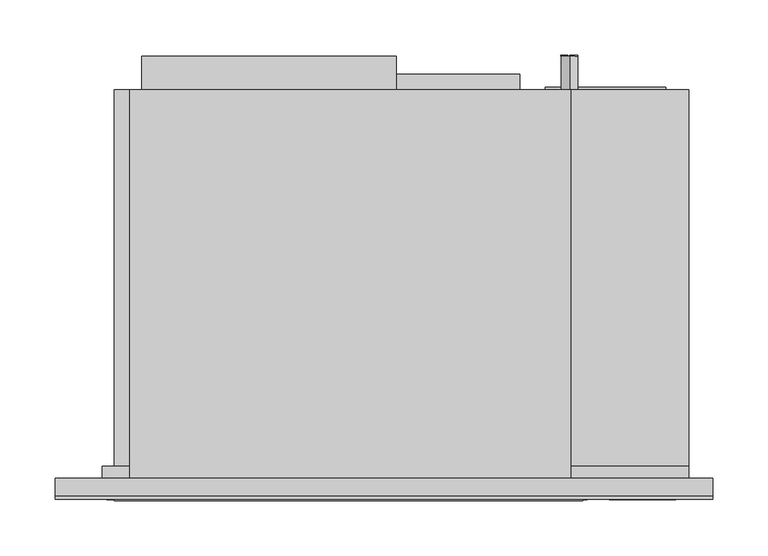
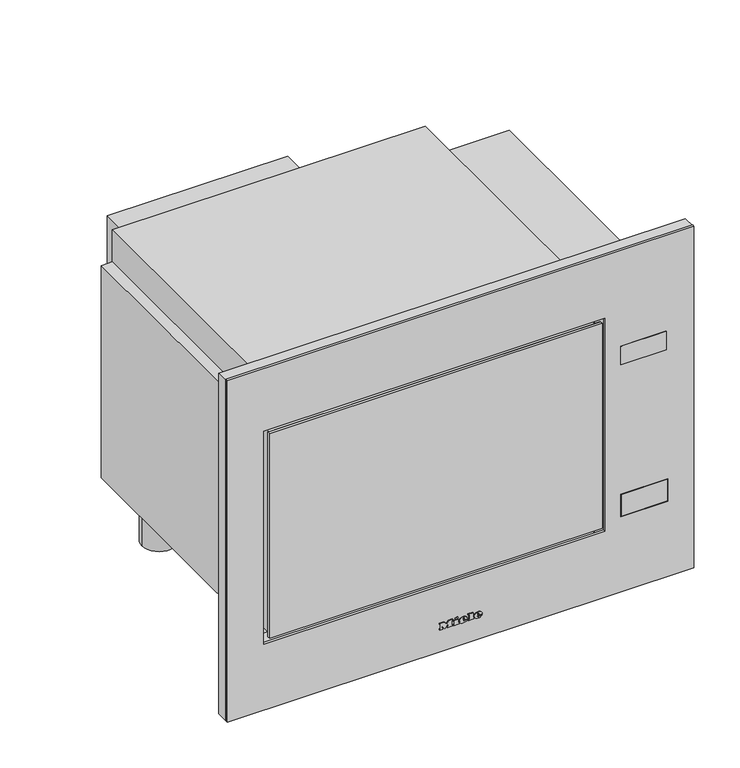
"""IFC4 building model written with IfcOpenShell, lengths in millimetres: proxy geometry, 11100570_NER_M2240SC_OBSW : 24224020_NER_11100570_M2240SC_OBSW."""

from ifc_helpers import new_model, si_unit, point, frame, frame_2d, origin, origin_with_axes, place, context, project, spatial, polyline, circle_curve, ellipse_curve, trimmed, segment, composite_curve, outline, extrude, faceted_brep, source, transform, mapped, element, save
from ifc_brep_helpers import plane_surface, cylinder_surface, revolved_surface, extruded_surface, advanced_brep


def specialty_equipment_8418b30c(model_context):
    return source(origin(), model_context, "Body", "SolidModel", [
        advanced_brep(
        [(21.28, -20.0, 27.133), (21.28, -20.0, 28.042), (27.301, -20.0, 28.042), (16.825, -20.0, 28.042), (19.3, -20.0, 25.0), (27.148, -20.0, 27.133), (24.43, -20.0, 27.133), (22.288, -20.0, 26.125), (21.28, -20.0, 29.194), (21.28, -20.0, 30.175), (22.819, -20.0, 30.175), (22.819, -20.0, 29.194), (21.28, -19.0, 27.133), (22.288, -19.0, 26.125), (24.43, -19.0, 27.133), (27.148, -19.0, 27.133), (19.3, -19.0, 25.0), (16.825, -19.0, 28.042), (27.301, -19.0, 28.042), (21.28, -19.0, 28.042), (21.28, -19.0, 29.194), (22.819, -19.0, 29.194), (22.819, -19.0, 30.175), (21.28, -19.0, 30.175)],
        [
            (0, 1),
            (1, 2),
            (2, 3, ellipse_curve(frame((22.063, -20.0, 28.042), z_axis=(0.0, -1.0, 0.0), x_axis=(-1.0, 0.0, 0.0)), 5.238, 4.329)),
            (3, 4, circle_curve(frame((20.3080491, -20.0, 28.348), z_axis=(0.0, -1.0, 0.0), x_axis=(0.0, 0.0, -1.0)), 3.4964649)),
            (4, 5, circle_curve(frame((21.9581428, -20.0, 30.724), z_axis=(0.0, -1.0, 0.0), x_axis=(0.0, 0.0, -1.0)), 6.3110933)),
            (5, 6),
            (6, 7, circle_curve(frame((22.7279412, -20.0, 27.97), z_axis=(0.0, 1.0, 0.0), x_axis=(0.0, 0.0, -1.0)), 1.896727)),
            (7, 0, circle_curve(frame((22.288, -20.0, 27.133), z_axis=(0.0, 1.0, 0.0), x_axis=(0.0, 0.0, -1.0)), 1.008)),
            (8, 9),
            (9, 10, circle_curve(frame((22.0495, -20.0, 30.175), z_axis=(0.0, 1.0, 0.0), x_axis=(0.0, 0.0, -1.0)), 0.7695)),
            (10, 11),
            (11, 8),
            (12, 13, circle_curve(frame((22.288, -19.0, 27.133), z_axis=(0.0, -1.0, 0.0), x_axis=(0.0, 0.0, -1.0)), 1.008)),
            (13, 14, circle_curve(frame((22.7279412, -19.0, 27.97), z_axis=(0.0, -1.0, 0.0), x_axis=(0.0, 0.0, -1.0)), 1.896727)),
            (14, 15),
            (15, 16, circle_curve(frame((21.9581428, -19.0, 30.724), z_axis=(0.0, 1.0, 0.0), x_axis=(0.0, 0.0, -1.0)), 6.3110933)),
            (16, 17, circle_curve(frame((20.3080491, -19.0, 28.348), z_axis=(0.0, 1.0, 0.0), x_axis=(0.0, 0.0, -1.0)), 3.4964649)),
            (17, 18, ellipse_curve(frame((22.063, -19.0, 28.042), z_axis=(0.0, 1.0, 0.0), x_axis=(-1.0, 0.0, 0.0)), 5.238, 4.329)),
            (18, 19),
            (19, 12),
            (20, 21),
            (21, 22),
            (22, 23, circle_curve(frame((22.0495, -19.0, 30.175), z_axis=(0.0, -1.0, 0.0), x_axis=(0.0, 0.0, -1.0)), 0.7695)),
            (23, 20),
            (0, 12),
            (19, 1),
            (18, 2),
            (5, 15),
            (14, 6),
            (17, 3),
            (13, 7),
            (16, 4),
            (8, 20),
            (23, 9),
            (22, 10),
            (21, 11),
        ],
        [
            plane_surface(frame((21.28, -20.0, 28.042), z_axis=(0.0, -1.0, 0.0), x_axis=(0.0, 0.0, 1.0))),
            plane_surface(frame((21.28, -19.0, 28.042), z_axis=(0.0, 1.0, 0.0), x_axis=(0.0, 0.0, -1.0))),
            plane_surface(frame((21.28, -20.0, 27.133), z_axis=(1.0, 0.0, 0.0), x_axis=(0.0, 1.0, 0.0))),
            plane_surface(frame((21.28, -20.0, 28.042), z_axis=(0.0, 0.0, -1.0), x_axis=(0.0, 1.0, 0.0))),
            plane_surface(frame((27.148, -20.0, 27.133), z_axis=(0.0, 0.0, 1.0), x_axis=(0.0, 1.0, 0.0))),
            extruded_surface(trimmed(ellipse_curve(frame((22.063, -18.0, 28.042), z_axis=(0.0, -1.0, 0.0), x_axis=(-1.0, 0.0, 0.0)), 5.238, 4.329), [point((27.301, -18.0, 28.042))], [point((16.825, -18.0, 28.042))], True, "CARTESIAN"), (0.0, -1.0, 0.0), 1.0),
            revolved_surface(polyline([(22.7279412, -19.0, 26.073273), (22.7279412, -20.0, 26.073273)]), (22.7279412, -19.0, 27.97), (0.0, 1.0, 0.0)),
            revolved_surface(polyline([(22.288, -19.0, 26.125), (22.288, -20.0, 26.125)]), (22.288, -19.0, 27.133), (0.0, 1.0, 0.0)),
            cylinder_surface(frame((20.3080491, -19.0, 28.348), z_axis=(0.0, -1.0, 0.0), x_axis=(0.0, 0.0, -1.0)), 3.4964649),
            cylinder_surface(frame((21.9581428, -19.0, 30.724), z_axis=(0.0, -1.0, 0.0), x_axis=(0.0, 0.0, -1.0)), 6.3110933),
            plane_surface(frame((21.28, -20.0, 29.194), z_axis=(1.0, 0.0, 0.0), x_axis=(0.0, 1.0, 0.0))),
            revolved_surface(polyline([(22.0495, -19.0, 29.4055), (22.0495, -20.0, 29.4055)]), (22.0495, -19.0, 30.175), (0.0, 1.0, 0.0)),
            plane_surface(frame((22.819, -20.0, 30.175), z_axis=(-1.0, 0.0, 0.0), x_axis=(0.0, 1.0, 0.0))),
            plane_surface(frame((22.819, -20.0, 29.194), z_axis=(0.0, 0.0, 1.0), x_axis=(0.0, 1.0, 0.0))),
        ],
        [
            (0, [[1, 2, 3, 4, 5, 6, 7, 8], [9, 10, 11, 12]]),
            (1, [[13, 14, 15, 16, 17, 18, 19, 20], [21, 22, 23, 24]]),
            (2, [[-1, 25, -20, 26]]),
            (3, [[-2, -26, -19, 27]]),
            (4, [[-6, 28, -15, 29]]),
            (5, [[-3, -27, -18, 30]]),
            (6, [[-7, -29, -14, 31]]),
            (7, [[-8, -31, -13, -25]]),
            (8, [[-4, -30, -17, 32]]),
            (9, [[-5, -32, -16, -28]]),
            (10, [[-9, 33, -24, 34]]),
            (11, [[-10, -34, -23, 35]]),
            (12, [[-11, -35, -22, 36]]),
            (13, [[-12, -36, -21, -33]]),
        ],
    ),
        advanced_brep(
        [(2.497, -20.0, 27.133), (2.497, -20.0, 28.042), (8.518, -20.0, 28.042), (-1.958, -20.0, 28.042), (0.517, -20.0, 25.0), (8.365, -20.0, 27.133), (5.647, -20.0, 27.133), (3.505, -20.0, 26.125), (2.497, -20.0, 29.194), (2.497, -20.0, 30.175), (4.036, -20.0, 30.175), (4.036, -20.0, 29.194), (2.497, -19.0, 27.133), (3.505, -19.0, 26.125), (5.647, -19.0, 27.133), (8.365, -19.0, 27.133), (0.517, -19.0, 25.0), (-1.958, -19.0, 28.042), (8.518, -19.0, 28.042), (2.497, -19.0, 28.042), (2.497, -19.0, 29.194), (4.036, -19.0, 29.194), (4.036, -19.0, 30.175), (2.497, -19.0, 30.175)],
        [
            (0, 1),
            (1, 2),
            (2, 3, ellipse_curve(frame((3.28, -20.0, 28.042), z_axis=(0.0, -1.0, 0.0), x_axis=(-1.0, 0.0, 0.0)), 5.238, 4.329)),
            (3, 4, circle_curve(frame((1.5250491, -20.0, 28.348), z_axis=(0.0, -1.0, 0.0), x_axis=(0.0, 0.0, -1.0)), 3.4964649)),
            (4, 5, circle_curve(frame((3.1751428, -20.0, 30.724), z_axis=(0.0, -1.0, 0.0), x_axis=(0.0, 0.0, -1.0)), 6.3110933)),
            (5, 6),
            (6, 7, circle_curve(frame((3.9449412, -20.0, 27.97), z_axis=(0.0, 1.0, 0.0), x_axis=(0.0, 0.0, -1.0)), 1.896727)),
            (7, 0, circle_curve(frame((3.505, -20.0, 27.133), z_axis=(0.0, 1.0, 0.0), x_axis=(0.0, 0.0, -1.0)), 1.008)),
            (8, 9),
            (9, 10, circle_curve(frame((3.2665, -20.0, 30.175), z_axis=(0.0, 1.0, 0.0), x_axis=(0.0, 0.0, -1.0)), 0.7695)),
            (10, 11),
            (11, 8),
            (12, 13, circle_curve(frame((3.505, -19.0, 27.133), z_axis=(0.0, -1.0, 0.0), x_axis=(0.0, 0.0, -1.0)), 1.008)),
            (13, 14, circle_curve(frame((3.9449412, -19.0, 27.97), z_axis=(0.0, -1.0, 0.0), x_axis=(0.0, 0.0, -1.0)), 1.896727)),
            (14, 15),
            (15, 16, circle_curve(frame((3.1751428, -19.0, 30.724), z_axis=(0.0, 1.0, 0.0), x_axis=(0.0, 0.0, -1.0)), 6.3110933)),
            (16, 17, circle_curve(frame((1.5250491, -19.0, 28.348), z_axis=(0.0, 1.0, 0.0), x_axis=(0.0, 0.0, -1.0)), 3.4964649)),
            (17, 18, ellipse_curve(frame((3.28, -19.0, 28.042), z_axis=(0.0, 1.0, 0.0), x_axis=(-1.0, 0.0, 0.0)), 5.238, 4.329)),
            (18, 19),
            (19, 12),
            (20, 21),
            (21, 22),
            (22, 23, circle_curve(frame((3.2665, -19.0, 30.175), z_axis=(0.0, -1.0, 0.0), x_axis=(0.0, 0.0, -1.0)), 0.7695)),
            (23, 20),
            (0, 12),
            (19, 1),
            (18, 2),
            (5, 15),
            (14, 6),
            (17, 3),
            (13, 7),
            (16, 4),
            (8, 20),
            (23, 9),
            (22, 10),
            (21, 11),
        ],
        [
            plane_surface(frame((2.497, -20.0, 28.042), z_axis=(0.0, -1.0, 0.0), x_axis=(0.0, 0.0, 1.0))),
            plane_surface(frame((2.497, -19.0, 28.042), z_axis=(0.0, 1.0, 0.0), x_axis=(0.0, 0.0, -1.0))),
            plane_surface(frame((2.497, -20.0, 27.133), z_axis=(1.0, 0.0, 0.0), x_axis=(0.0, 1.0, 0.0))),
            plane_surface(frame((2.497, -20.0, 28.042), z_axis=(0.0, 0.0, -1.0), x_axis=(0.0, 1.0, 0.0))),
            plane_surface(frame((8.365, -20.0, 27.133), z_axis=(0.0, 0.0, 1.0), x_axis=(0.0, 1.0, 0.0))),
            extruded_surface(trimmed(ellipse_curve(frame((3.28, -18.0, 28.042), z_axis=(0.0, -1.0, 0.0), x_axis=(-1.0, 0.0, 0.0)), 5.238, 4.329), [point((8.518, -18.0, 28.042))], [point((-1.958, -18.0, 28.042))], True, "CARTESIAN"), (0.0, -1.0, 0.0), 1.0),
            revolved_surface(polyline([(3.9449412, -19.0, 26.073273), (3.9449412, -20.0, 26.073273)]), (3.9449412, -19.0, 27.97), (0.0, 1.0, 0.0)),
            revolved_surface(polyline([(3.505, -19.0, 26.125), (3.505, -20.0, 26.125)]), (3.505, -19.0, 27.133), (0.0, 1.0, 0.0)),
            cylinder_surface(frame((1.5250491, -19.0, 28.348), z_axis=(0.0, -1.0, 0.0), x_axis=(0.0, 0.0, -1.0)), 3.4964649),
            cylinder_surface(frame((3.1751428, -19.0, 30.724), z_axis=(0.0, -1.0, 0.0), x_axis=(0.0, 0.0, -1.0)), 6.3110933),
            plane_surface(frame((2.497, -20.0, 29.194), z_axis=(1.0, 0.0, 0.0), x_axis=(0.0, 1.0, 0.0))),
            revolved_surface(polyline([(3.2665, -19.0, 29.4055), (3.2665, -20.0, 29.4055)]), (3.2665, -19.0, 30.175), (0.0, 1.0, 0.0)),
            plane_surface(frame((4.036, -20.0, 30.175), z_axis=(-1.0, 0.0, 0.0), x_axis=(0.0, 1.0, 0.0))),
            plane_surface(frame((4.036, -20.0, 29.194), z_axis=(0.0, 0.0, 1.0), x_axis=(0.0, 1.0, 0.0))),
        ],
        [
            (0, [[1, 2, 3, 4, 5, 6, 7, 8], [9, 10, 11, 12]]),
            (1, [[13, 14, 15, 16, 17, 18, 19, 20], [21, 22, 23, 24]]),
            (2, [[-1, 25, -20, 26]]),
            (3, [[-2, -26, -19, 27]]),
            (4, [[-6, 28, -15, 29]]),
            (5, [[-3, -27, -18, 30]]),
            (6, [[-7, -29, -14, 31]]),
            (7, [[-8, -31, -13, -25]]),
            (8, [[-4, -30, -17, 32]]),
            (9, [[-5, -32, -16, -28]]),
            (10, [[-9, 33, -24, 34]]),
            (11, [[-10, -34, -23, 35]]),
            (12, [[-11, -35, -22, 36]]),
            (13, [[-12, -36, -21, -33]]),
        ],
    ),
        extrude(outline(polyline([(33.469, -7.34), (32.011, -6.656), (33.433, -3.605), (34.891, -4.28), (33.469, -7.34)])), frame((0.0, -20.0, 0.0), z_axis=(0.0, 1.0, 0.0), x_axis=(0.0, 0.0, 1.0)), (0.0, 0.0, 1.0), 1.0),
        extrude(outline(polyline([(31.813, -9.563), (30.202, -9.563), (30.202, -8.492), (26.512, -8.492), (26.512, -9.563), (25.0, -9.563), (25.0, -2.462), (26.512, -2.462), (26.512, -3.506), (31.813, -3.506), (31.813, -9.563)])), frame((0.0, -20.0, 0.0), z_axis=(0.0, 1.0, 0.0), x_axis=(0.0, 0.0, 1.0)), (0.0, 0.0, 1.0), 1.0),
        extrude(outline(polyline([(32.533, 9.022), (32.533, 10.102), (26.512, 10.102), (26.512, 9.022), (25.0, 9.022), (25.0, 16.321), (26.512, 16.321), (26.512, 15.214), (34.0, 15.214), (34.0, 9.022), (32.533, 9.022)])), frame((0.0, -20.0, 0.0), z_axis=(0.0, 1.0, 0.0), x_axis=(0.0, 0.0, 1.0)), (0.0, 0.0, 1.0), 1.0),
        extrude(outline(polyline([(32.533, -27.5), (32.533, -26.411), (26.512, -26.411), (26.512, -27.5), (25.0, -27.5), (25.0, -23.54), (26.512, -23.54), (26.512, -24.62), (30.3341247, -24.62), (25.0, -20.597), (30.4402223, -16.556), (26.512, -16.556), (26.512, -17.663), (25.0, -17.663), (25.0, -10.481), (26.512, -10.481), (26.512, -11.624), (32.533, -11.624), (32.533, -10.481), (34.0, -10.481), (34.0, -15.962), (30.625, -18.59), (34.0, -21.227), (34.0, -27.5), (32.533, -27.5)])), frame((0.0, -20.0, 0.0), z_axis=(0.0, 1.0, 0.0), x_axis=(0.0, 0.0, 1.0)), (0.0, 0.0, 1.0), 1.0),
        extrude(outline(polyline([(204.5, -16.0), (263.5, -16.0), (263.5, -19.0), (204.5, -19.0), (204.5, -16.0)])), frame((0.0, 0.0, 97.0), z_axis=(0.0, 0.0, 1.0), x_axis=(1.0, 0.0, 0.0)), (0.0, 0.0, 1.0), 29.0),
        extrude(outline(polyline([(204.0, -18.8), (262.0, -18.8), (262.0, -19.1), (204.0, -19.1), (204.0, -18.8)])), frame((0.0, 0.0, 301.5), z_axis=(0.0, 0.0, 1.0), x_axis=(1.0, 0.0, 0.0)), (0.0, 0.0, 1.0), 25.0),
        extrude(outline(polyline([(455.5, 297.5), (455.5, -297.5), (-5.0, -297.5), (-5.0, 297.5), (455.5, 297.5)]), holes=[polyline([(371.0, 184.0), (84.0, 184.0), (84.0, -251.0), (371.0, -251.0), (371.0, 184.0)]), polyline([(126.5, 264.0), (96.5, 264.0), (96.5, 204.0), (126.5, 204.0), (126.5, 264.0)])]), frame((0.0, -19.0, 0.0), z_axis=(0.0, 1.0, 0.0), x_axis=(0.0, 0.0, 1.0)), (0.0, 0.0, 1.0), 3.0),
        extrude(outline(polyline([(-243.0, 10.0), (180.0, 10.0), (180.0, -16.0), (-243.0, -16.0), (-243.0, 10.0)])), frame((0.0, 0.0, 95.0), z_axis=(0.0, 0.0, 1.0), x_axis=(1.0, 0.0, 0.0)), (0.0, 0.0, 1.0), 271.0),
        extrude(outline(polyline([(-244.0, -16.0), (180.0, -16.0), (180.0, -20.0), (-244.0, -20.0), (-244.0, -16.0)])), frame((0.0, 0.0, 90.0), z_axis=(0.0, 0.0, 1.0), x_axis=(1.0, 0.0, 0.0)), (0.0, 0.0, 1.0), 276.0),
        extrude(outline(polyline([(-219.0, 382.0), (11.0, 382.0), (11.0, 352.0), (-219.0, 352.0), (-219.0, 382.0)])), frame((0.0, 0.0, 336.0), z_axis=(0.0, 0.0, 1.0), x_axis=(1.0, 0.0, 0.0)), (0.0, 0.0, 1.0), 71.0),
        extrude(outline(polyline([(348.0536781, 168.1660444), (346.7952065, 168.1660444), (346.7952065, 174.1269959), (343.8028248, 174.1269959), (343.8028248, 168.4835385), (342.5487231, 168.4835385), (342.5487231, 174.1269959), (339.2630117, 174.1269959), (339.2630117, 168.0), (338.0, 168.0), (338.0, 175.3757838), (348.0536781, 175.3757838), (348.0536781, 168.1660444)])), frame((0.0, 382.0, 0.0), z_axis=(0.0, 1.0, 0.0), x_axis=(0.0, 0.0, 1.0)), (0.0, 0.0, 1.0), 1.0),
        extrude(outline(polyline([(348.0536781, 164.8530432), (339.2543004, 164.8530432), (339.2543004, 159.8378502), (338.0, 159.8378502), (338.0, 166.1246692), (348.0536781, 166.1246692), (348.0536781, 164.8530432)])), frame((0.0, 382.0, 0.0), z_axis=(0.0, 1.0, 0.0), x_axis=(0.0, 0.0, 1.0)), (0.0, 0.0, 1.0), 1.0),
        extrude(outline(composite_curve([segment(trimmed(circle_curve(frame_2d((343.0, 168.0)), 7.5), [point((335.5, 168.0))], [point((350.5, 168.0))], False, "CARTESIAN"), True, "CONTINUOUS"), segment(trimmed(circle_curve(frame_2d((343.0, 168.0)), 7.5), [point((350.5, 168.0))], [point((335.5, 168.0))], False, "CARTESIAN"), True, "CONTINUOUS")], self_intersect=False)), frame((0.0, 352.0, 0.0), z_axis=(0.0, 1.0, 0.0), x_axis=(0.0, 0.0, 1.0)), (0.0, 0.0, 1.0), 30.0),
        extrude(outline(composite_curve([segment(trimmed(circle_curve(frame_2d((-191.0, 61.0)), 22.0), [point((-169.0, 61.0))], [point((-213.0, 61.0))], False, "CARTESIAN"), True, "CONTINUOUS"), segment(trimmed(circle_curve(frame_2d((-191.0, 61.0)), 22.0), [point((-213.0, 61.0))], [point((-169.0, 61.0))], False, "CARTESIAN"), True, "CONTINUOUS")], self_intersect=False)), origin_with_axes(), (0.0, 0.0, 1.0), 81.0),
        extrude(outline(composite_curve([segment(trimmed(circle_curve(frame_2d((229.0, 61.0)), 22.0), [point((251.0, 61.0))], [point((207.0, 61.0))], False, "CARTESIAN"), True, "CONTINUOUS"), segment(trimmed(circle_curve(frame_2d((229.0, 61.0)), 22.0), [point((207.0, 61.0))], [point((251.0, 61.0))], False, "CARTESIAN"), True, "CONTINUOUS")], self_intersect=False)), origin_with_axes(), (0.0, 0.0, 1.0), 81.0),
        extrude(outline(composite_curve([segment(trimmed(circle_curve(frame_2d((229.0, 316.0)), 22.0), [point((251.0, 316.0))], [point((207.0, 316.0))], False, "CARTESIAN"), True, "CONTINUOUS"), segment(trimmed(circle_curve(frame_2d((229.0, 316.0)), 22.0), [point((207.0, 316.0))], [point((251.0, 316.0))], False, "CARTESIAN"), True, "CONTINUOUS")], self_intersect=False)), origin_with_axes(), (0.0, 0.0, 1.0), 81.0),
        extrude(outline(composite_curve([segment(trimmed(circle_curve(frame_2d((-191.0, 316.0)), 22.0), [point((-169.0, 316.0))], [point((-213.0, 316.0))], False, "CARTESIAN"), True, "CONTINUOUS"), segment(trimmed(circle_curve(frame_2d((-191.0, 316.0)), 22.0), [point((-213.0, 316.0))], [point((-169.0, 316.0))], False, "CARTESIAN"), True, "CONTINUOUS")], self_intersect=False)), origin_with_axes(), (0.0, 0.0, 1.0), 81.0),
        faceted_brep([(172.0, 10.0, 371.0), (-253.0, 10.0, 371.0), (-253.0, 10.0, 84.0), (172.0, 10.0, 84.0), (127.0, 10.0, 327.0), (127.0, 10.0, 121.0), (-209.0, 10.0, 121.0), (-209.0, 10.0, 327.0), (172.0, 0.0, 84.0), (172.0, 0.0, 371.0), (-253.0, 0.0, 84.0), (-253.0, 0.0, 371.0), (-255.0, 11.0, 81.0), (-255.0, 11.0, 372.0), (-230.0, 11.0, 372.0), (-230.0, 11.0, 367.0), (-244.0, 11.0, 367.0), (-244.0, 11.0, 81.0), (169.0, 11.0, 372.0), (276.0, 11.0, 372.0), (276.0, 11.0, 367.0), (169.0, 11.0, 367.0), (-255.0, 0.0, 372.0), (-255.0, 0.0, 81.0), (276.0, 0.0, 81.0), (276.0, 0.0, 372.0), (169.0, 0.0, 372.0), (169.0, 0.0, 410.0), (-230.0, 0.0, 410.0), (-230.0, 0.0, 372.0), (276.0, 352.0, 81.0), (276.0, 352.0, 367.0), (-244.0, 352.0, 81.0), (127.0, 350.0, 327.0), (-209.0, 350.0, 327.0), (-209.0, 350.0, 121.0), (127.0, 350.0, 121.0), (-244.0, 352.0, 367.0), (-230.0, 352.0, 367.0), (-230.0, 352.0, 410.0), (169.0, 352.0, 410.0), (169.0, 352.0, 367.0)], [[[0, 1, 2, 3], [4, 5, 6, 7]], [[0, 3, 8, 9]], [[3, 2, 10, 8]], [[2, 1, 11, 10]], [[1, 0, 9, 11]], [[12, 13, 14, 15, 16, 17]], [[18, 19, 20, 21]], [[22, 23, 24, 25, 26, 27, 28, 29], [9, 8, 10, 11]], [[25, 19, 18, 26]], [[13, 22, 29, 14]], [[19, 25, 24, 30, 31, 20]], [[23, 12, 17, 32, 30, 24]], [[13, 12, 23, 22]], [[33, 34, 35, 36]], [[33, 36, 5, 4]], [[36, 35, 6, 5]], [[35, 34, 7, 6]], [[34, 33, 4, 7]], [[30, 32, 37, 38, 39, 40, 41, 31]], [[37, 32, 17, 16]], [[38, 37, 16, 15]], [[39, 38, 15, 14, 29, 28]], [[28, 27, 40, 39]], [[41, 40, 27, 26, 18, 21]], [[31, 41, 21, 20]]]),
        extrude(outline(polyline([(146.0, 354.0), (255.0, 354.0), (255.0, 352.0), (146.0, 352.0), (146.0, 354.0)])), frame((0.0, 0.0, 152.1865515), z_axis=(0.0, 0.0, 1.0), x_axis=(1.0, 0.0, 0.0)), (0.0, 0.0, 1.0), 164.8134485),
        extrude(outline(polyline([(-205.0, 366.0), (123.0, 366.0), (123.0, 352.0), (-205.0, 352.0), (-205.0, 366.0)])), frame((0.0, 0.0, 124.0), z_axis=(0.0, 0.0, 1.0), x_axis=(1.0, 0.0, 0.0)), (0.0, 0.0, 1.0), 169.0),
        extrude(outline(polyline([(454.0, 297.5), (454.0, -297.5), (-5.0, -297.5), (-5.0, 297.5), (454.0, 297.5)]), holes=[polyline([(371.0, 172.0), (84.0, 172.0), (84.0, -253.0), (371.0, -253.0), (371.0, 172.0)])]), frame((0.0, -16.0, 0.0), z_axis=(0.0, 1.0, 0.0), x_axis=(0.0, 0.0, 1.0)), (0.0, 0.0, 1.0), 16.0),
    ])


if __name__ == "__main__":
    model = new_model("IFC4")
    model_context = context("Model", 3, world=origin())
    ifc_project = project(units=[si_unit("LENGTHUNIT", "METRE", prefix="MILLI")], contexts=[model_context])
    site = spatial("IfcSite", under=ifc_project)
    building = spatial("IfcBuilding", under=site)
    placement = place(None, origin())
    specialty_equipment_shape = specialty_equipment_8418b30c(model_context)
    element("IfcBuildingElementProxy", 1, Name="11100570_NER_M2240SC_OBSW : 24224020_NER_11100570_M2240SC_OBSW", ObjectType="11100570_NER_M2240SC_OBSW : 24224020_NER_11100570_M2240SC_OBSW", at=placement, inside=building, context=model_context, shape_type="MappedRepresentation", body=[
        mapped(specialty_equipment_shape, transform((0.0, 0.0, 0.0), x_axis=(1.0, 0.0, 0.0), y_axis=(0.0, 1.0, 0.0), z_axis=(0.0, 0.0, 1.0))),
    ])
    save(model, "model.ifc")
